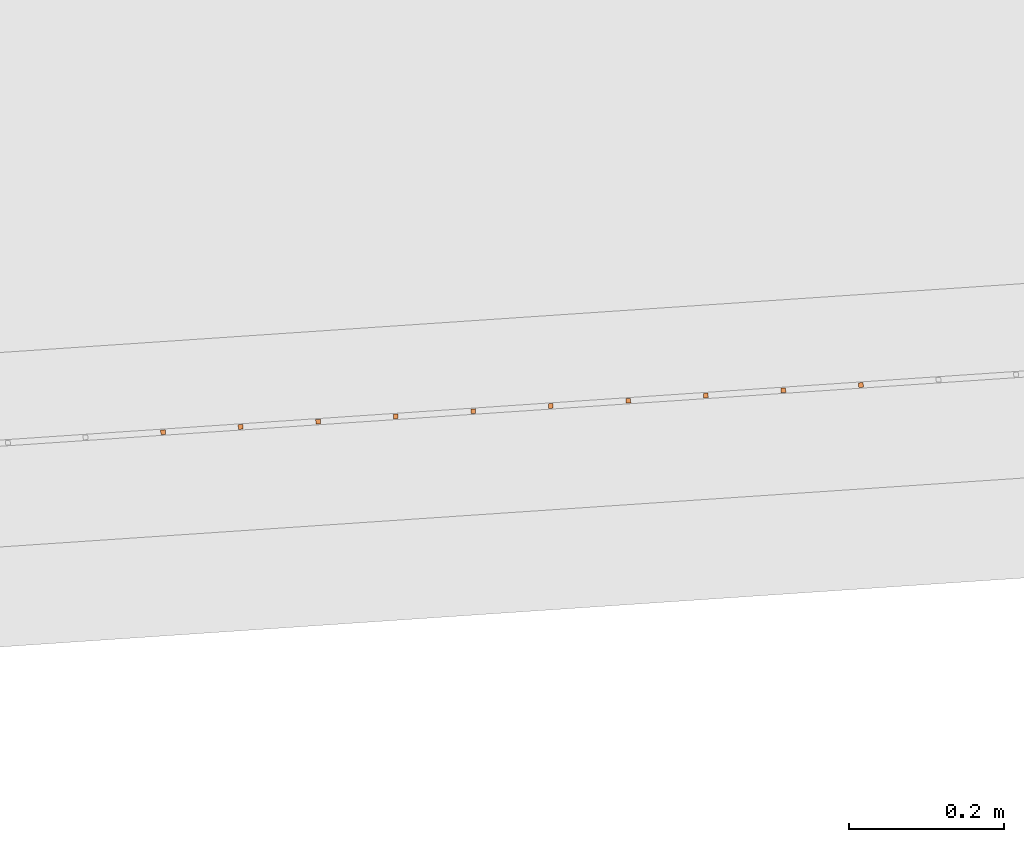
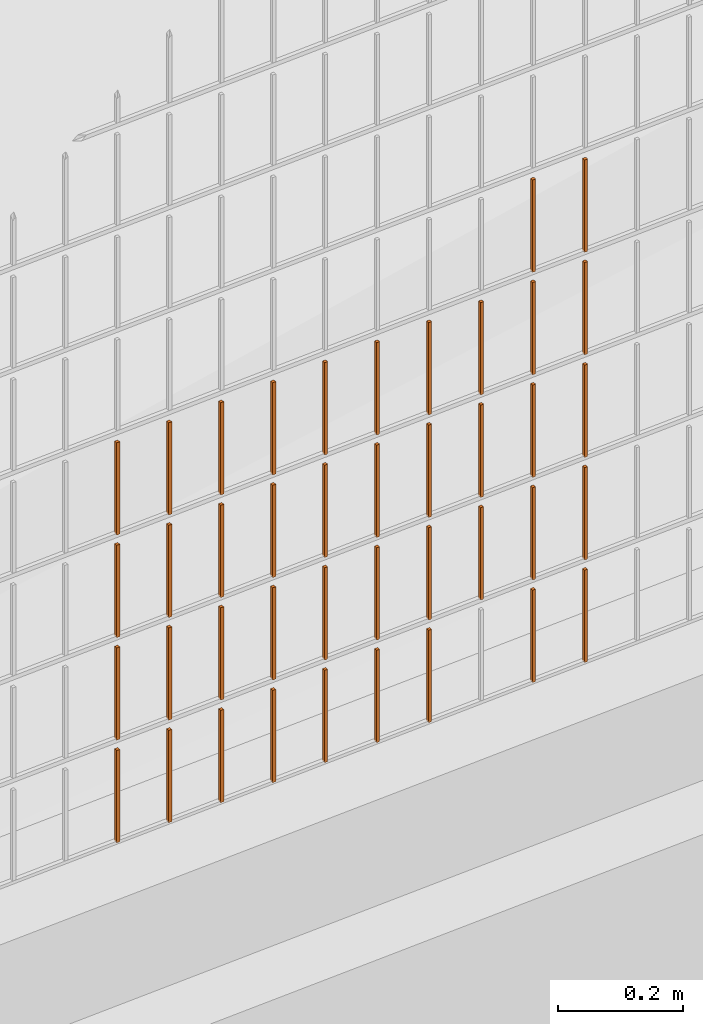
# One storey, part 85 of 1809: 41 proxies, 1 element without a shape of its own.
"""IFC2X3 building model written with IfcOpenShell, lengths in millimetres."""

from ifc_helpers import new_model, entity, si_unit, converted_unit, derived_unit, money_unit, direction, frame, origin_with_axes, place, context, subcontext, project, spatial, faceted_brep, source, transform, mapped, material, type_object, element, aggregate, save


model = new_model("IFC2X3")

# Units and contexts
model_context = context("Model", 3, precision=0.01, world=origin_with_axes(), true_north=direction((0.0, 1.0)))
body_context = subcontext(model_context, "Body", "Model", "MODEL_VIEW")
ifc_project = project(units=[si_unit("LENGTHUNIT", "METRE", prefix="MILLI"), si_unit("AREAUNIT", "SQUARE_METRE"), si_unit("VOLUMEUNIT", "CUBIC_METRE"), converted_unit("PLANEANGLEUNIT", "DEGREE", entity("IfcPlaneAngleMeasure", 0.0174532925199), si_unit("PLANEANGLEUNIT", "RADIAN"), dimensions=[0, 0, 0, 0, 0, 0, 0]), si_unit("SOLIDANGLEUNIT", "STERADIAN"), money_unit("EUR"), converted_unit("TIMEUNIT", "Year", entity("IfcTimeMeasure", 31556926.0), si_unit("TIMEUNIT", "SECOND"), dimensions=[0, 0, 1, 0, 0, 0, 0]), si_unit("MASSUNIT", "GRAM", prefix="KILO"), si_unit("THERMODYNAMICTEMPERATUREUNIT", "DEGREE_CELSIUS"), si_unit("LUMINOUSINTENSITYUNIT", "LUMEN"), si_unit("ENERGYUNIT", "JOULE", prefix="MEGA"), derived_unit("THERMALCONDUCTANCEUNIT", [(si_unit("POWERUNIT", "WATT"), 1), (si_unit("LENGTHUNIT", "METRE"), -1), (si_unit("THERMODYNAMICTEMPERATUREUNIT", "KELVIN"), -1)]), derived_unit("SPECIFICHEATCAPACITYUNIT", [(si_unit("ENERGYUNIT", "JOULE"), 1), (si_unit("MASSUNIT", "GRAM", prefix="KILO"), -1), (si_unit("THERMODYNAMICTEMPERATUREUNIT", "KELVIN"), -1)]), derived_unit("MASSDENSITYUNIT", [(si_unit("MASSUNIT", "GRAM", prefix="KILO"), 1), (si_unit("VOLUMEUNIT", "CUBIC_METRE"), -1)])], contexts=[model_context])

# Site, building, storey
site_placement = place(None, origin_with_axes())
site = spatial("IfcSite", under=ifc_project, at=site_placement, Name="Politse- ja Piirivalveameti ning Päästeameti ühishoone", CompositionType="ELEMENT")
building_placement = place(site_placement, origin_with_axes())
building = spatial("IfcBuilding", under=site, at=building_placement, Name="Politse- ja Piirivalveameti ning Päästeameti ühishoone", CompositionType="ELEMENT")
storey_placement = place(building_placement, origin_with_axes())
storey = spatial("IfcBuildingStorey", under=building, at=storey_placement, Name="Esimene korrus", CompositionType="ELEMENT", Elevation=0.0)

# Proxies
building_element_proxy_type_1 = type_object("IfcBuildingElementProxyType", Name="Railing Type", PredefinedType="NOTDEFINED")
proxy_1_placement = place(storey_placement, frame((89252.001212, -29183.4766571, 203.661247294), z_axis=(0.0, 0.0, 1.0), x_axis=(1.0, 0.0, 0.0)))
proxy_1 = element("IfcBuildingElementProxy", 1, at=proxy_1_placement, inside=storey, type_object=building_element_proxy_type_1, Name="PIIRDEAED")
ifc_material = material(Name="ET-03_Raud")
building_element_proxy_type_2 = type_object("IfcBuildingElementProxyType", Name="IfcBuildingElementProxy", PredefinedType="NOTDEFINED")
shared_shape_1 = source(origin_with_axes(), body_context, "Body", "Brep", [
    faceted_brep([(3.0, 3.0, -0.000752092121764), (-3.0, 3.0, -0.000752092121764), (-3.0, 3.0, 179.99926046), (3.0, 3.0, 179.99926046), (3.0, -3.0, 0.000752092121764), (-3.0, -3.0, 0.000752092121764), (-3.0, -3.0, 180.000764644), (3.0, -3.0, 180.000764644)], [[[0, 1, 2, 3]], [[0, 4, 5, 1]], [[1, 5, 6, 2]], [[3, 2, 6, 7]], [[4, 0, 3, 7]], [[5, 4, 7, 6]]]),
])
proxy_2_placement = place(proxy_1_placement, frame((-100597.461543, -24092.7536477, 601.957399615), z_axis=(0.0, 0.0, 1.0), x_axis=(1.0, 0.0, 0.0)))
proxy_2 = element("IfcBuildingElementProxy", 2, at=proxy_2_placement, type_object=building_element_proxy_type_2, material=ifc_material, Name="BALUSTER - 001", context=body_context, shape_type="MappedRepresentation", body=[
    mapped(shared_shape_1, transform((0.0, 0.0, 0.0), x_axis=(-0.0673926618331, 0.997726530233, 0.0), y_axis=(-0.997726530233, -0.0673926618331, 0.0), z_axis=(0.0, 0.0, 1.0))),
])
shared_shape_2 = source(origin_with_axes(), body_context, "Body", "Brep", [
    faceted_brep([(3.0, 3.0, -0.000752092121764), (-3.0, 3.0, -0.000752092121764), (-3.0, 3.0, 179.99926046), (3.0, 3.0, 179.99926046), (3.0, -3.0, 0.000752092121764), (-3.0, -3.0, 0.000752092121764), (-3.0, -3.0, 180.000764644), (3.0, -3.0, 180.000764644)], [[[0, 1, 2, 3]], [[0, 4, 5, 1]], [[1, 5, 6, 2]], [[3, 2, 6, 7]], [[4, 0, 3, 7]], [[5, 4, 7, 6]]]),
])
proxy_3_placement = place(proxy_1_placement, frame((-100597.461543, -24092.7536477, 401.957399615), z_axis=(0.0, 0.0, 1.0), x_axis=(1.0, 0.0, 0.0)))
proxy_3 = element("IfcBuildingElementProxy", 3, at=proxy_3_placement, type_object=building_element_proxy_type_2, material=ifc_material, Name="BALUSTER - 001", context=body_context, shape_type="MappedRepresentation", body=[
    mapped(shared_shape_2, transform((0.0, 0.0, 0.0), x_axis=(-0.0673926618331, 0.997726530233, 0.0), y_axis=(-0.997726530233, -0.0673926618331, 0.0), z_axis=(0.0, 0.0, 1.0))),
])
shared_shape_3 = source(origin_with_axes(), body_context, "Body", "Brep", [
    faceted_brep([(3.0, 3.0, -0.000752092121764), (-3.0, 3.0, -0.000752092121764), (-3.0, 3.0, 179.99926046), (3.0, 3.0, 179.99926046), (3.0, -3.0, 0.000752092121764), (-3.0, -3.0, 0.000752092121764), (-3.0, -3.0, 180.000764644), (3.0, -3.0, 180.000764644)], [[[0, 1, 2, 3]], [[0, 4, 5, 1]], [[1, 5, 6, 2]], [[3, 2, 6, 7]], [[4, 0, 3, 7]], [[5, 4, 7, 6]]]),
])
proxy_4_placement = place(proxy_1_placement, frame((-100497.68889, -24086.0143815, 201.982469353), z_axis=(0.0, 0.0, 1.0), x_axis=(1.0, 0.0, 0.0)))
proxy_4 = element("IfcBuildingElementProxy", 4, at=proxy_4_placement, type_object=building_element_proxy_type_2, material=ifc_material, Name="BALUSTER - 001", context=body_context, shape_type="MappedRepresentation", body=[
    mapped(shared_shape_3, transform((0.0, 0.0, 0.0), x_axis=(-0.0673926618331, 0.997726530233, 0.0), y_axis=(-0.997726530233, -0.0673926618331, 0.0), z_axis=(0.0, 0.0, 1.0))),
])
shared_shape_4 = source(origin_with_axes(), body_context, "Body", "Brep", [
    faceted_brep([(3.0, 3.0, -0.000752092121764), (-3.0, 3.0, -0.000752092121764), (-3.0, 3.0, 179.99926046), (3.0, 3.0, 179.99926046), (3.0, -3.0, 0.000752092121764), (-3.0, -3.0, 0.000752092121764), (-3.0, -3.0, 180.000764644), (3.0, -3.0, 180.000764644)], [[[0, 1, 2, 3]], [[0, 4, 5, 1]], [[1, 5, 6, 2]], [[3, 2, 6, 7]], [[4, 0, 3, 7]], [[5, 4, 7, 6]]]),
])
proxy_5_placement = place(proxy_1_placement, frame((-100497.68889, -24086.0143815, 401.982469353), z_axis=(0.0, 0.0, 1.0), x_axis=(1.0, 0.0, 0.0)))
proxy_5 = element("IfcBuildingElementProxy", 5, at=proxy_5_placement, type_object=building_element_proxy_type_2, material=ifc_material, Name="BALUSTER - 001", context=body_context, shape_type="MappedRepresentation", body=[
    mapped(shared_shape_4, transform((0.0, 0.0, 0.0), x_axis=(-0.0673926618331, 0.997726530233, 0.0), y_axis=(-0.997726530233, -0.0673926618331, 0.0), z_axis=(0.0, 0.0, 1.0))),
])
proxy_6_placement = place(proxy_1_placement, frame((-101096.324808, -24126.4499786, 601.832050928), z_axis=(0.0, 0.0, 1.0), x_axis=(1.0, 0.0, 0.0)))
proxy_6 = element("IfcBuildingElementProxy", 6, at=proxy_6_placement, type_object=building_element_proxy_type_2, material=ifc_material, Name="BALUSTER - 001", context=body_context, shape_type="MappedRepresentation", body=[
    mapped(shared_shape_4, transform((0.0, 0.0, 0.0), x_axis=(-0.0673926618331, 0.997726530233, 0.0), y_axis=(-0.997726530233, -0.0673926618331, 0.0), z_axis=(0.0, 0.0, 1.0))),
])
shared_shape_5 = source(origin_with_axes(), body_context, "Body", "Brep", [
    faceted_brep([(3.0, 3.0, -0.000752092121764), (-3.0, 3.0, -0.000752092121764), (-3.0, 3.0, 179.99926046), (3.0, 3.0, 179.99926046), (3.0, -3.0, 0.000752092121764), (-3.0, -3.0, 0.000752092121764), (-3.0, -3.0, 180.000764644), (3.0, -3.0, 180.000764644)], [[[0, 1, 2, 3]], [[0, 4, 5, 1]], [[1, 5, 6, 2]], [[3, 2, 6, 7]], [[4, 0, 3, 7]], [[5, 4, 7, 6]]]),
])
proxy_7_placement = place(proxy_1_placement, frame((-100497.68889, -24086.0143815, 1.98246935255), z_axis=(0.0, 0.0, 1.0), x_axis=(1.0, 0.0, 0.0)))
proxy_7 = element("IfcBuildingElementProxy", 7, at=proxy_7_placement, type_object=building_element_proxy_type_2, material=ifc_material, Name="BALUSTER - 001", context=body_context, shape_type="MappedRepresentation", body=[
    mapped(shared_shape_5, transform((0.0, 0.0, 0.0), x_axis=(-0.0673926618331, 0.997726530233, 0.0), y_axis=(-0.997726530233, -0.0673926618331, 0.0), z_axis=(0.0, 0.0, 1.0))),
])
proxy_8_placement = place(proxy_1_placement, frame((-101096.324808, -24126.4499786, 1.83205092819), z_axis=(0.0, 0.0, 1.0), x_axis=(1.0, 0.0, 0.0)))
proxy_8 = element("IfcBuildingElementProxy", 8, at=proxy_8_placement, type_object=building_element_proxy_type_2, material=ifc_material, Name="BALUSTER - 001", context=body_context, shape_type="MappedRepresentation", body=[
    mapped(shared_shape_5, transform((0.0, 0.0, 0.0), x_axis=(-0.0673926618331, 0.997726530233, 0.0), y_axis=(-0.997726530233, -0.0673926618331, 0.0), z_axis=(0.0, 0.0, 1.0))),
])
shared_shape_6 = source(origin_with_axes(), body_context, "Body", "Brep", [
    faceted_brep([(3.0, 3.0, -0.000752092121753), (-3.0, 3.0, -0.000752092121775), (-3.0, 3.0, 179.99926046), (3.0, 3.0, 179.99926046), (3.0, -3.0, 0.000752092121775), (-3.0, -3.0, 0.000752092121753), (-3.0, -3.0, 180.000764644), (3.0, -3.0, 180.000764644)], [[[0, 1, 2, 3]], [[0, 4, 5, 1]], [[1, 5, 6, 2]], [[3, 2, 6, 7]], [[4, 0, 3, 7]], [[5, 4, 7, 6]]]),
])
proxy_9_placement = place(proxy_1_placement, frame((-100298.143584, -24072.5358491, 2.03260882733), z_axis=(0.0, 0.0, 1.0), x_axis=(1.0, 0.0, 0.0)))
proxy_9 = element("IfcBuildingElementProxy", 9, at=proxy_9_placement, type_object=building_element_proxy_type_2, material=ifc_material, Name="BALUSTER - 001", context=body_context, shape_type="MappedRepresentation", body=[
    mapped(shared_shape_6, transform((0.0, 0.0, 0.0), x_axis=(-0.0673926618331, 0.997726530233, 0.0), y_axis=(-0.997726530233, -0.0673926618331, 0.0), z_axis=(0.0, 0.0, 1.0))),
])
proxy_10_placement = place(proxy_1_placement, frame((-100896.779502, -24112.9714462, 1.88219040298), z_axis=(0.0, 0.0, 1.0), x_axis=(1.0, 0.0, 0.0)))
proxy_10 = element("IfcBuildingElementProxy", 10, at=proxy_10_placement, type_object=building_element_proxy_type_2, material=ifc_material, Name="BALUSTER - 001", context=body_context, shape_type="MappedRepresentation", body=[
    mapped(shared_shape_6, transform((0.0, 0.0, 0.0), x_axis=(-0.0673926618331, 0.997726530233, 0.0), y_axis=(-0.997726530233, -0.0673926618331, 0.0), z_axis=(0.0, 0.0, 1.0))),
])
proxy_11_placement = place(proxy_1_placement, frame((-100996.552155, -24119.7107124, 1.85712066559), z_axis=(0.0, 0.0, 1.0), x_axis=(1.0, 0.0, 0.0)))
proxy_11 = element("IfcBuildingElementProxy", 11, at=proxy_11_placement, type_object=building_element_proxy_type_2, material=ifc_material, Name="BALUSTER - 001", context=body_context, shape_type="MappedRepresentation", body=[
    mapped(shared_shape_6, transform((0.0, 0.0, 0.0), x_axis=(-0.0673926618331, 0.997726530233, 0.0), y_axis=(-0.997726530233, -0.0673926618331, 0.0), z_axis=(0.0, 0.0, 1.0))),
])
shared_shape_7 = source(origin_with_axes(), body_context, "Body", "Brep", [
    faceted_brep([(3.0, 3.0, -0.000752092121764), (-3.0, 3.0, -0.000752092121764), (-3.0, 3.0, 179.99926046), (3.0, 3.0, 179.99926046), (3.0, -3.0, 0.000752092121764), (-3.0, -3.0, 0.000752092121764), (-3.0, -3.0, 180.000764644), (3.0, -3.0, 180.000764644)], [[[0, 1, 2, 3]], [[0, 4, 5, 1]], [[1, 5, 6, 2]], [[3, 2, 6, 7]], [[4, 0, 3, 7]], [[5, 4, 7, 6]]]),
])
proxy_12_placement = place(proxy_1_placement, frame((-100697.234196, -24099.4929139, 201.932329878), z_axis=(0.0, 0.0, 1.0), x_axis=(1.0, 0.0, 0.0)))
proxy_12 = element("IfcBuildingElementProxy", 12, at=proxy_12_placement, type_object=building_element_proxy_type_2, material=ifc_material, Name="BALUSTER - 001", context=body_context, shape_type="MappedRepresentation", body=[
    mapped(shared_shape_7, transform((0.0, 0.0, 0.0), x_axis=(-0.0673926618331, 0.997726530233, 0.0), y_axis=(-0.997726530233, -0.0673926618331, 0.0), z_axis=(0.0, 0.0, 1.0))),
])
shared_shape_8 = source(origin_with_axes(), body_context, "Body", "Brep", [
    faceted_brep([(3.0, 3.0, -0.000752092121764), (-3.0, 3.0, -0.000752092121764), (-3.0, 3.0, 179.99926046), (3.0, 3.0, 179.99926046), (3.0, -3.0, 0.000752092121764), (-3.0, -3.0, 0.000752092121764), (-3.0, -3.0, 180.000764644), (3.0, -3.0, 180.000764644)], [[[0, 1, 2, 3]], [[0, 4, 5, 1]], [[1, 5, 6, 2]], [[3, 2, 6, 7]], [[4, 0, 3, 7]], [[5, 4, 7, 6]]]),
])
proxy_13_placement = place(proxy_1_placement, frame((-100697.234196, -24099.4929139, 601.932329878), z_axis=(0.0, 0.0, 1.0), x_axis=(1.0, 0.0, 0.0)))
proxy_13 = element("IfcBuildingElementProxy", 13, at=proxy_13_placement, type_object=building_element_proxy_type_2, material=ifc_material, Name="BALUSTER - 001", context=body_context, shape_type="MappedRepresentation", body=[
    mapped(shared_shape_8, transform((0.0, 0.0, 0.0), x_axis=(-0.0673926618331, 0.997726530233, 0.0), y_axis=(-0.997726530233, -0.0673926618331, 0.0), z_axis=(0.0, 0.0, 1.0))),
])
shared_shape_9 = source(origin_with_axes(), body_context, "Body", "Brep", [
    faceted_brep([(3.0, 3.0, -0.000752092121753), (-3.0, 3.0, -0.000752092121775), (-3.0, 3.0, 179.99926046), (3.0, 3.0, 179.99926046), (3.0, -3.0, 0.000752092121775), (-3.0, -3.0, 0.000752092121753), (-3.0, -3.0, 180.000764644), (3.0, -3.0, 180.000764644)], [[[0, 1, 2, 3]], [[0, 4, 5, 1]], [[1, 5, 6, 2]], [[3, 2, 6, 7]], [[4, 0, 3, 7]], [[5, 4, 7, 6]]]),
])
proxy_14_placement = place(proxy_1_placement, frame((-100198.370931, -24065.796583, 202.057678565), z_axis=(0.0, 0.0, 1.0), x_axis=(1.0, 0.0, 0.0)))
proxy_14 = element("IfcBuildingElementProxy", 14, at=proxy_14_placement, type_object=building_element_proxy_type_2, material=ifc_material, Name="BALUSTER - 001", context=body_context, shape_type="MappedRepresentation", body=[
    mapped(shared_shape_9, transform((0.0, 0.0, 0.0), x_axis=(-0.0673926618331, 0.997726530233, 0.0), y_axis=(-0.997726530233, -0.0673926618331, 0.0), z_axis=(0.0, 0.0, 1.0))),
])
proxy_15_placement = place(proxy_1_placement, frame((-100896.779502, -24112.9714462, 201.882190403), z_axis=(0.0, 0.0, 1.0), x_axis=(1.0, 0.0, 0.0)))
proxy_15 = element("IfcBuildingElementProxy", 15, at=proxy_15_placement, type_object=building_element_proxy_type_2, material=ifc_material, Name="BALUSTER - 001", context=body_context, shape_type="MappedRepresentation", body=[
    mapped(shared_shape_9, transform((0.0, 0.0, 0.0), x_axis=(-0.0673926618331, 0.997726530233, 0.0), y_axis=(-0.997726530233, -0.0673926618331, 0.0), z_axis=(0.0, 0.0, 1.0))),
])
proxy_16_placement = place(proxy_1_placement, frame((-100797.006849, -24106.2321801, 601.90726014), z_axis=(0.0, 0.0, 1.0), x_axis=(1.0, 0.0, 0.0)))
proxy_16 = element("IfcBuildingElementProxy", 16, at=proxy_16_placement, type_object=building_element_proxy_type_2, material=ifc_material, Name="BALUSTER - 001", context=body_context, shape_type="MappedRepresentation", body=[
    mapped(shared_shape_9, transform((0.0, 0.0, 0.0), x_axis=(-0.0673926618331, 0.997726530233, 0.0), y_axis=(-0.997726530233, -0.0673926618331, 0.0), z_axis=(0.0, 0.0, 1.0))),
])
shared_shape_10 = source(origin_with_axes(), body_context, "Body", "Brep", [
    faceted_brep([(3.0, 3.0, -0.000752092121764), (-3.0, 3.0, -0.000752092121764), (-3.0, 3.0, 179.99926046), (3.0, 3.0, 179.99926046), (3.0, -3.0, 0.000752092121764), (-3.0, -3.0, 0.000752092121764), (-3.0, -3.0, 180.000764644), (3.0, -3.0, 180.000764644)], [[[0, 1, 2, 3]], [[0, 4, 5, 1]], [[1, 5, 6, 2]], [[3, 2, 6, 7]], [[4, 0, 3, 7]], [[5, 4, 7, 6]]]),
])
proxy_17_placement = place(proxy_1_placement, frame((-100697.234196, -24099.4929139, 401.932329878), z_axis=(0.0, 0.0, 1.0), x_axis=(1.0, 0.0, 0.0)))
proxy_17 = element("IfcBuildingElementProxy", 17, at=proxy_17_placement, type_object=building_element_proxy_type_2, material=ifc_material, Name="BALUSTER - 001", context=body_context, shape_type="MappedRepresentation", body=[
    mapped(shared_shape_10, transform((0.0, 0.0, 0.0), x_axis=(-0.0673926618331, 0.997726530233, 0.0), y_axis=(-0.997726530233, -0.0673926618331, 0.0), z_axis=(0.0, 0.0, 1.0))),
])
shared_shape_11 = source(origin_with_axes(), body_context, "Body", "Brep", [
    faceted_brep([(3.0, 3.0, -0.000752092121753), (-3.0, 3.0, -0.000752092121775), (-3.0, 3.0, 179.99926046), (3.0, 3.0, 179.99926046), (3.0, -3.0, 0.000752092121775), (-3.0, -3.0, 0.000752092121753), (-3.0, -3.0, 180.000764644), (3.0, -3.0, 180.000764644)], [[[0, 1, 2, 3]], [[0, 4, 5, 1]], [[1, 5, 6, 2]], [[3, 2, 6, 7]], [[4, 0, 3, 7]], [[5, 4, 7, 6]]]),
])
proxy_18_placement = place(proxy_1_placement, frame((-100198.370931, -24065.796583, 802.057678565), z_axis=(0.0, 0.0, 1.0), x_axis=(1.0, 0.0, 0.0)))
proxy_18 = element("IfcBuildingElementProxy", 18, at=proxy_18_placement, type_object=building_element_proxy_type_2, material=ifc_material, Name="BALUSTER - 001", context=body_context, shape_type="MappedRepresentation", body=[
    mapped(shared_shape_11, transform((0.0, 0.0, 0.0), x_axis=(-0.0673926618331, 0.997726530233, 0.0), y_axis=(-0.997726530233, -0.0673926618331, 0.0), z_axis=(0.0, 0.0, 1.0))),
])
proxy_19_placement = place(proxy_1_placement, frame((-100298.143584, -24072.5358491, 802.032608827), z_axis=(0.0, 0.0, 1.0), x_axis=(1.0, 0.0, 0.0)))
proxy_19 = element("IfcBuildingElementProxy", 19, at=proxy_19_placement, type_object=building_element_proxy_type_2, material=ifc_material, Name="BALUSTER - 001", context=body_context, shape_type="MappedRepresentation", body=[
    mapped(shared_shape_11, transform((0.0, 0.0, 0.0), x_axis=(-0.0673926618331, 0.997726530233, 0.0), y_axis=(-0.997726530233, -0.0673926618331, 0.0), z_axis=(0.0, 0.0, 1.0))),
])
shared_shape_12 = source(origin_with_axes(), body_context, "Body", "Brep", [
    faceted_brep([(3.0, 3.0, -0.000752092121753), (-3.0, 3.0, -0.000752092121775), (-3.0, 3.0, 179.99926046), (3.0, 3.0, 179.99926046), (3.0, -3.0, 0.000752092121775), (-3.0, -3.0, 0.000752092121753), (-3.0, -3.0, 180.000764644), (3.0, -3.0, 180.000764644)], [[[0, 1, 2, 3]], [[0, 4, 5, 1]], [[1, 5, 6, 2]], [[3, 2, 6, 7]], [[4, 0, 3, 7]], [[5, 4, 7, 6]]]),
])
proxy_20_placement = place(proxy_1_placement, frame((-100198.370931, -24065.796583, 2.05767856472), z_axis=(0.0, 0.0, 1.0), x_axis=(1.0, 0.0, 0.0)))
proxy_20 = element("IfcBuildingElementProxy", 20, at=proxy_20_placement, type_object=building_element_proxy_type_2, material=ifc_material, Name="BALUSTER - 001", context=body_context, shape_type="MappedRepresentation", body=[
    mapped(shared_shape_12, transform((0.0, 0.0, 0.0), x_axis=(-0.0673926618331, 0.997726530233, 0.0), y_axis=(-0.997726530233, -0.0673926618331, 0.0), z_axis=(0.0, 0.0, 1.0))),
])
proxy_21_placement = place(proxy_1_placement, frame((-100797.006849, -24106.2321801, 1.90726014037), z_axis=(0.0, 0.0, 1.0), x_axis=(1.0, 0.0, 0.0)))
proxy_21 = element("IfcBuildingElementProxy", 21, at=proxy_21_placement, type_object=building_element_proxy_type_2, material=ifc_material, Name="BALUSTER - 001", context=body_context, shape_type="MappedRepresentation", body=[
    mapped(shared_shape_12, transform((0.0, 0.0, 0.0), x_axis=(-0.0673926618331, 0.997726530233, 0.0), y_axis=(-0.997726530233, -0.0673926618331, 0.0), z_axis=(0.0, 0.0, 1.0))),
])
shared_shape_13 = source(origin_with_axes(), body_context, "Body", "Brep", [
    faceted_brep([(3.0, 3.0, -0.000752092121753), (-3.0, 3.0, -0.000752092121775), (-3.0, 3.0, 179.99926046), (3.0, 3.0, 179.99926046), (3.0, -3.0, 0.000752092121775), (-3.0, -3.0, 0.000752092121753), (-3.0, -3.0, 180.000764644), (3.0, -3.0, 180.000764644)], [[[0, 1, 2, 3]], [[0, 4, 5, 1]], [[1, 5, 6, 2]], [[3, 2, 6, 7]], [[4, 0, 3, 7]], [[5, 4, 7, 6]]]),
])
proxy_22_placement = place(proxy_1_placement, frame((-100298.143584, -24072.5358491, 202.032608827), z_axis=(0.0, 0.0, 1.0), x_axis=(1.0, 0.0, 0.0)))
proxy_22 = element("IfcBuildingElementProxy", 22, at=proxy_22_placement, type_object=building_element_proxy_type_2, material=ifc_material, Name="BALUSTER - 001", context=body_context, shape_type="MappedRepresentation", body=[
    mapped(shared_shape_13, transform((0.0, 0.0, 0.0), x_axis=(-0.0673926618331, 0.997726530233, 0.0), y_axis=(-0.997726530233, -0.0673926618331, 0.0), z_axis=(0.0, 0.0, 1.0))),
])
proxy_23_placement = place(proxy_1_placement, frame((-100797.006849, -24106.2321801, 201.90726014), z_axis=(0.0, 0.0, 1.0), x_axis=(1.0, 0.0, 0.0)))
proxy_23 = element("IfcBuildingElementProxy", 23, at=proxy_23_placement, type_object=building_element_proxy_type_2, material=ifc_material, Name="BALUSTER - 001", context=body_context, shape_type="MappedRepresentation", body=[
    mapped(shared_shape_13, transform((0.0, 0.0, 0.0), x_axis=(-0.0673926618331, 0.997726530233, 0.0), y_axis=(-0.997726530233, -0.0673926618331, 0.0), z_axis=(0.0, 0.0, 1.0))),
])
proxy_24_placement = place(proxy_1_placement, frame((-100996.552155, -24119.7107124, 201.857120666), z_axis=(0.0, 0.0, 1.0), x_axis=(1.0, 0.0, 0.0)))
proxy_24 = element("IfcBuildingElementProxy", 24, at=proxy_24_placement, type_object=building_element_proxy_type_2, material=ifc_material, Name="BALUSTER - 001", context=body_context, shape_type="MappedRepresentation", body=[
    mapped(shared_shape_13, transform((0.0, 0.0, 0.0), x_axis=(-0.0673926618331, 0.997726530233, 0.0), y_axis=(-0.997726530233, -0.0673926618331, 0.0), z_axis=(0.0, 0.0, 1.0))),
])
proxy_25_placement = place(proxy_1_placement, frame((-100198.370931, -24065.796583, 402.057678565), z_axis=(0.0, 0.0, 1.0), x_axis=(1.0, 0.0, 0.0)))
proxy_25 = element("IfcBuildingElementProxy", 25, at=proxy_25_placement, type_object=building_element_proxy_type_2, material=ifc_material, Name="BALUSTER - 001", context=body_context, shape_type="MappedRepresentation", body=[
    mapped(shared_shape_13, transform((0.0, 0.0, 0.0), x_axis=(-0.0673926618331, 0.997726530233, 0.0), y_axis=(-0.997726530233, -0.0673926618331, 0.0), z_axis=(0.0, 0.0, 1.0))),
])
proxy_26_placement = place(proxy_1_placement, frame((-100298.143584, -24072.5358491, 402.032608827), z_axis=(0.0, 0.0, 1.0), x_axis=(1.0, 0.0, 0.0)))
proxy_26 = element("IfcBuildingElementProxy", 26, at=proxy_26_placement, type_object=building_element_proxy_type_2, material=ifc_material, Name="BALUSTER - 001", context=body_context, shape_type="MappedRepresentation", body=[
    mapped(shared_shape_13, transform((0.0, 0.0, 0.0), x_axis=(-0.0673926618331, 0.997726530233, 0.0), y_axis=(-0.997726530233, -0.0673926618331, 0.0), z_axis=(0.0, 0.0, 1.0))),
])
proxy_27_placement = place(proxy_1_placement, frame((-100797.006849, -24106.2321801, 401.90726014), z_axis=(0.0, 0.0, 1.0), x_axis=(1.0, 0.0, 0.0)))
proxy_27 = element("IfcBuildingElementProxy", 27, at=proxy_27_placement, type_object=building_element_proxy_type_2, material=ifc_material, Name="BALUSTER - 001", context=body_context, shape_type="MappedRepresentation", body=[
    mapped(shared_shape_13, transform((0.0, 0.0, 0.0), x_axis=(-0.0673926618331, 0.997726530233, 0.0), y_axis=(-0.997726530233, -0.0673926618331, 0.0), z_axis=(0.0, 0.0, 1.0))),
])
proxy_28_placement = place(proxy_1_placement, frame((-100896.779502, -24112.9714462, 401.882190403), z_axis=(0.0, 0.0, 1.0), x_axis=(1.0, 0.0, 0.0)))
proxy_28 = element("IfcBuildingElementProxy", 28, at=proxy_28_placement, type_object=building_element_proxy_type_2, material=ifc_material, Name="BALUSTER - 001", context=body_context, shape_type="MappedRepresentation", body=[
    mapped(shared_shape_13, transform((0.0, 0.0, 0.0), x_axis=(-0.0673926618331, 0.997726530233, 0.0), y_axis=(-0.997726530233, -0.0673926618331, 0.0), z_axis=(0.0, 0.0, 1.0))),
])
proxy_29_placement = place(proxy_1_placement, frame((-100996.552155, -24119.7107124, 401.857120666), z_axis=(0.0, 0.0, 1.0), x_axis=(1.0, 0.0, 0.0)))
proxy_29 = element("IfcBuildingElementProxy", 29, at=proxy_29_placement, type_object=building_element_proxy_type_2, material=ifc_material, Name="BALUSTER - 001", context=body_context, shape_type="MappedRepresentation", body=[
    mapped(shared_shape_13, transform((0.0, 0.0, 0.0), x_axis=(-0.0673926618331, 0.997726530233, 0.0), y_axis=(-0.997726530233, -0.0673926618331, 0.0), z_axis=(0.0, 0.0, 1.0))),
])
proxy_30_placement = place(proxy_1_placement, frame((-100198.370931, -24065.796583, 602.057678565), z_axis=(0.0, 0.0, 1.0), x_axis=(1.0, 0.0, 0.0)))
proxy_30 = element("IfcBuildingElementProxy", 30, at=proxy_30_placement, type_object=building_element_proxy_type_2, material=ifc_material, Name="BALUSTER - 001", context=body_context, shape_type="MappedRepresentation", body=[
    mapped(shared_shape_13, transform((0.0, 0.0, 0.0), x_axis=(-0.0673926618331, 0.997726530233, 0.0), y_axis=(-0.997726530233, -0.0673926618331, 0.0), z_axis=(0.0, 0.0, 1.0))),
])
proxy_31_placement = place(proxy_1_placement, frame((-100298.143584, -24072.5358491, 602.032608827), z_axis=(0.0, 0.0, 1.0), x_axis=(1.0, 0.0, 0.0)))
proxy_31 = element("IfcBuildingElementProxy", 31, at=proxy_31_placement, type_object=building_element_proxy_type_2, material=ifc_material, Name="BALUSTER - 001", context=body_context, shape_type="MappedRepresentation", body=[
    mapped(shared_shape_13, transform((0.0, 0.0, 0.0), x_axis=(-0.0673926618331, 0.997726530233, 0.0), y_axis=(-0.997726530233, -0.0673926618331, 0.0), z_axis=(0.0, 0.0, 1.0))),
])
proxy_32_placement = place(proxy_1_placement, frame((-100896.779502, -24112.9714462, 601.882190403), z_axis=(0.0, 0.0, 1.0), x_axis=(1.0, 0.0, 0.0)))
proxy_32 = element("IfcBuildingElementProxy", 32, at=proxy_32_placement, type_object=building_element_proxy_type_2, material=ifc_material, Name="BALUSTER - 001", context=body_context, shape_type="MappedRepresentation", body=[
    mapped(shared_shape_13, transform((0.0, 0.0, 0.0), x_axis=(-0.0673926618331, 0.997726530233, 0.0), y_axis=(-0.997726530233, -0.0673926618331, 0.0), z_axis=(0.0, 0.0, 1.0))),
])
proxy_33_placement = place(proxy_1_placement, frame((-100996.552155, -24119.7107124, 601.857120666), z_axis=(0.0, 0.0, 1.0), x_axis=(1.0, 0.0, 0.0)))
proxy_33 = element("IfcBuildingElementProxy", 33, at=proxy_33_placement, type_object=building_element_proxy_type_2, material=ifc_material, Name="BALUSTER - 001", context=body_context, shape_type="MappedRepresentation", body=[
    mapped(shared_shape_13, transform((0.0, 0.0, 0.0), x_axis=(-0.0673926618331, 0.997726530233, 0.0), y_axis=(-0.997726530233, -0.0673926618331, 0.0), z_axis=(0.0, 0.0, 1.0))),
])
shared_shape_14 = source(origin_with_axes(), body_context, "Body", "Brep", [
    faceted_brep([(3.0, 3.0, -0.000752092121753), (-3.0, 3.0, -0.000752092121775), (-3.0, 3.0, 179.99926046), (3.0, 3.0, 179.99926046), (3.0, -3.0, 0.000752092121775), (-3.0, -3.0, 0.000752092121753), (-3.0, -3.0, 180.000764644), (3.0, -3.0, 180.000764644)], [[[0, 1, 2, 3]], [[0, 4, 5, 1]], [[1, 5, 6, 2]], [[3, 2, 6, 7]], [[4, 0, 3, 7]], [[5, 4, 7, 6]]]),
])
proxy_34_placement = place(proxy_1_placement, frame((-100397.916237, -24079.2751153, 402.00753909), z_axis=(0.0, 0.0, 1.0), x_axis=(1.0, 0.0, 0.0)))
proxy_34 = element("IfcBuildingElementProxy", 34, at=proxy_34_placement, type_object=building_element_proxy_type_2, material=ifc_material, Name="BALUSTER - 001", context=body_context, shape_type="MappedRepresentation", body=[
    mapped(shared_shape_14, transform((0.0, 0.0, 0.0), x_axis=(-0.0673926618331, 0.997726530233, 0.0), y_axis=(-0.997726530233, -0.0673926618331, 0.0), z_axis=(0.0, 0.0, 1.0))),
])
shared_shape_15 = source(origin_with_axes(), body_context, "Body", "Brep", [
    faceted_brep([(3.0, 3.0, -0.000752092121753), (-3.0, 3.0, -0.000752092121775), (-3.0, 3.0, 179.99926046), (3.0, 3.0, 179.99926046), (3.0, -3.0, 0.000752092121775), (-3.0, -3.0, 0.000752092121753), (-3.0, -3.0, 180.000764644), (3.0, -3.0, 180.000764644)], [[[0, 1, 2, 3]], [[0, 4, 5, 1]], [[1, 5, 6, 2]], [[3, 2, 6, 7]], [[4, 0, 3, 7]], [[5, 4, 7, 6]]]),
])
proxy_35_placement = place(proxy_1_placement, frame((-100397.916237, -24079.2751153, 202.00753909), z_axis=(0.0, 0.0, 1.0), x_axis=(1.0, 0.0, 0.0)))
proxy_35 = element("IfcBuildingElementProxy", 35, at=proxy_35_placement, type_object=building_element_proxy_type_2, material=ifc_material, Name="BALUSTER - 001", context=body_context, shape_type="MappedRepresentation", body=[
    mapped(shared_shape_15, transform((0.0, 0.0, 0.0), x_axis=(-0.0673926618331, 0.997726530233, 0.0), y_axis=(-0.997726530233, -0.0673926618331, 0.0), z_axis=(0.0, 0.0, 1.0))),
])
proxy_36_placement = place(proxy_1_placement, frame((-100397.916237, -24079.2751153, 602.00753909), z_axis=(0.0, 0.0, 1.0), x_axis=(1.0, 0.0, 0.0)))
proxy_36 = element("IfcBuildingElementProxy", 36, at=proxy_36_placement, type_object=building_element_proxy_type_2, material=ifc_material, Name="BALUSTER - 001", context=body_context, shape_type="MappedRepresentation", body=[
    mapped(shared_shape_15, transform((0.0, 0.0, 0.0), x_axis=(-0.0673926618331, 0.997726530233, 0.0), y_axis=(-0.997726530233, -0.0673926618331, 0.0), z_axis=(0.0, 0.0, 1.0))),
])
shared_shape_16 = source(origin_with_axes(), body_context, "Body", "Brep", [
    faceted_brep([(3.0, 3.0, -0.000752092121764), (-3.0, 3.0, -0.000752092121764), (-3.0, 3.0, 179.99926046), (3.0, 3.0, 179.99926046), (3.0, -3.0, 0.000752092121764), (-3.0, -3.0, 0.000752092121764), (-3.0, -3.0, 180.000764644), (3.0, -3.0, 180.000764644)], [[[0, 1, 2, 3]], [[0, 4, 5, 1]], [[1, 5, 6, 2]], [[3, 2, 6, 7]], [[4, 0, 3, 7]], [[5, 4, 7, 6]]]),
])
proxy_37_placement = place(proxy_1_placement, frame((-101096.324808, -24126.4499786, 401.832050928), z_axis=(0.0, 0.0, 1.0), x_axis=(1.0, 0.0, 0.0)))
proxy_37 = element("IfcBuildingElementProxy", 37, at=proxy_37_placement, type_object=building_element_proxy_type_2, material=ifc_material, Name="BALUSTER - 001", context=body_context, shape_type="MappedRepresentation", body=[
    mapped(shared_shape_16, transform((0.0, 0.0, 0.0), x_axis=(-0.0673926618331, 0.997726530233, 0.0), y_axis=(-0.997726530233, -0.0673926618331, 0.0), z_axis=(0.0, 0.0, 1.0))),
])
proxy_38_placement = place(proxy_1_placement, frame((-100497.68889, -24086.0143815, 601.982469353), z_axis=(0.0, 0.0, 1.0), x_axis=(1.0, 0.0, 0.0)))
proxy_38 = element("IfcBuildingElementProxy", 38, at=proxy_38_placement, type_object=building_element_proxy_type_2, material=ifc_material, Name="BALUSTER - 001", context=body_context, shape_type="MappedRepresentation", body=[
    mapped(shared_shape_16, transform((0.0, 0.0, 0.0), x_axis=(-0.0673926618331, 0.997726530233, 0.0), y_axis=(-0.997726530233, -0.0673926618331, 0.0), z_axis=(0.0, 0.0, 1.0))),
])
shared_shape_17 = source(origin_with_axes(), body_context, "Body", "Brep", [
    faceted_brep([(3.0, 3.0, -0.000752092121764), (-3.0, 3.0, -0.000752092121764), (-3.0, 3.0, 179.99926046), (3.0, 3.0, 179.99926046), (3.0, -3.0, 0.000752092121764), (-3.0, -3.0, 0.000752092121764), (-3.0, -3.0, 180.000764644), (3.0, -3.0, 180.000764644)], [[[0, 1, 2, 3]], [[0, 4, 5, 1]], [[1, 5, 6, 2]], [[3, 2, 6, 7]], [[4, 0, 3, 7]], [[5, 4, 7, 6]]]),
])
proxy_39_placement = place(proxy_1_placement, frame((-100597.461543, -24092.7536477, 1.95739961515), z_axis=(0.0, 0.0, 1.0), x_axis=(1.0, 0.0, 0.0)))
proxy_39 = element("IfcBuildingElementProxy", 39, at=proxy_39_placement, type_object=building_element_proxy_type_2, material=ifc_material, Name="BALUSTER - 001", context=body_context, shape_type="MappedRepresentation", body=[
    mapped(shared_shape_17, transform((0.0, 0.0, 0.0), x_axis=(-0.0673926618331, 0.997726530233, 0.0), y_axis=(-0.997726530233, -0.0673926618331, 0.0), z_axis=(0.0, 0.0, 1.0))),
])
proxy_40_placement = place(proxy_1_placement, frame((-100597.461543, -24092.7536477, 201.957399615), z_axis=(0.0, 0.0, 1.0), x_axis=(1.0, 0.0, 0.0)))
proxy_40 = element("IfcBuildingElementProxy", 40, at=proxy_40_placement, type_object=building_element_proxy_type_2, material=ifc_material, Name="BALUSTER - 001", context=body_context, shape_type="MappedRepresentation", body=[
    mapped(shared_shape_17, transform((0.0, 0.0, 0.0), x_axis=(-0.0673926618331, 0.997726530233, 0.0), y_axis=(-0.997726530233, -0.0673926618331, 0.0), z_axis=(0.0, 0.0, 1.0))),
])
shared_shape_18 = source(origin_with_axes(), body_context, "Body", "Brep", [
    faceted_brep([(3.0, 3.0, -0.000752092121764), (-3.0, 3.0, -0.000752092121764), (-3.0, 3.0, 179.99926046), (3.0, 3.0, 179.99926046), (3.0, -3.0, 0.000752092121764), (-3.0, -3.0, 0.000752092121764), (-3.0, -3.0, 180.000764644), (3.0, -3.0, 180.000764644)], [[[0, 1, 2, 3]], [[0, 4, 5, 1]], [[1, 5, 6, 2]], [[3, 2, 6, 7]], [[4, 0, 3, 7]], [[5, 4, 7, 6]]]),
])
proxy_41_placement = place(proxy_1_placement, frame((-101096.324808, -24126.4499786, 201.832050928), z_axis=(0.0, 0.0, 1.0), x_axis=(1.0, 0.0, 0.0)))
proxy_41 = element("IfcBuildingElementProxy", 41, at=proxy_41_placement, type_object=building_element_proxy_type_2, material=ifc_material, Name="BALUSTER - 001", context=body_context, shape_type="MappedRepresentation", body=[
    mapped(shared_shape_18, transform((0.0, 0.0, 0.0), x_axis=(-0.0673926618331, 0.997726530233, 0.0), y_axis=(-0.997726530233, -0.0673926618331, 0.0), z_axis=(0.0, 0.0, 1.0))),
])
shared_shape_19 = source(origin_with_axes(), body_context, "Body", "Brep", [
    faceted_brep([(3.0, 3.0, -0.000752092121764), (-3.0, 3.0, -0.000752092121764), (-3.0, 3.0, 179.99926046), (3.0, 3.0, 179.99926046), (3.0, -3.0, 0.000752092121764), (-3.0, -3.0, 0.000752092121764), (-3.0, -3.0, 180.000764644), (3.0, -3.0, 180.000764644)], [[[0, 1, 2, 3]], [[0, 4, 5, 1]], [[1, 5, 6, 2]], [[3, 2, 6, 7]], [[4, 0, 3, 7]], [[5, 4, 7, 6]]]),
])
proxy_42_placement = place(proxy_1_placement, frame((-100697.234196, -24099.4929139, 1.93232987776), z_axis=(0.0, 0.0, 1.0), x_axis=(1.0, 0.0, 0.0)))
proxy_42 = element("IfcBuildingElementProxy", 42, at=proxy_42_placement, type_object=building_element_proxy_type_2, material=ifc_material, Name="BALUSTER - 001", context=body_context, shape_type="MappedRepresentation", body=[
    mapped(shared_shape_19, transform((0.0, 0.0, 0.0), x_axis=(-0.0673926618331, 0.997726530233, 0.0), y_axis=(-0.997726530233, -0.0673926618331, 0.0), z_axis=(0.0, 0.0, 1.0))),
])
aggregate(proxy_1, [proxy_20, proxy_9, proxy_7, proxy_39, proxy_42, proxy_21, proxy_10, proxy_11, proxy_8, proxy_14, proxy_22, proxy_35, proxy_4, proxy_40, proxy_12, proxy_23, proxy_15, proxy_24, proxy_41, proxy_25, proxy_26, proxy_34, proxy_5, proxy_3, proxy_17, proxy_27, proxy_28, proxy_29, proxy_37, proxy_30, proxy_31, proxy_36, proxy_38, proxy_2, proxy_13, proxy_16, proxy_32, proxy_33, proxy_6, proxy_18, proxy_19])

save(model, "model.ifc")
